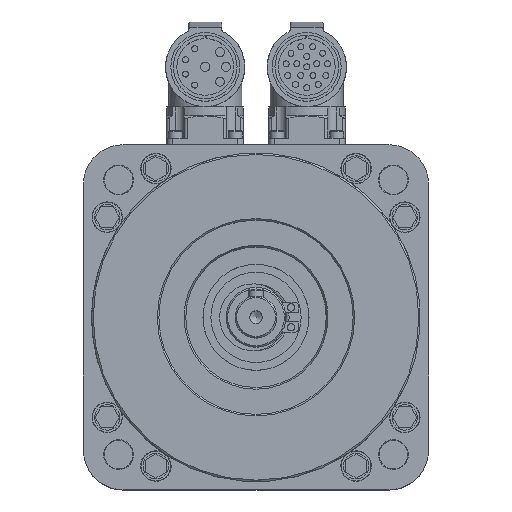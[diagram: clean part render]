
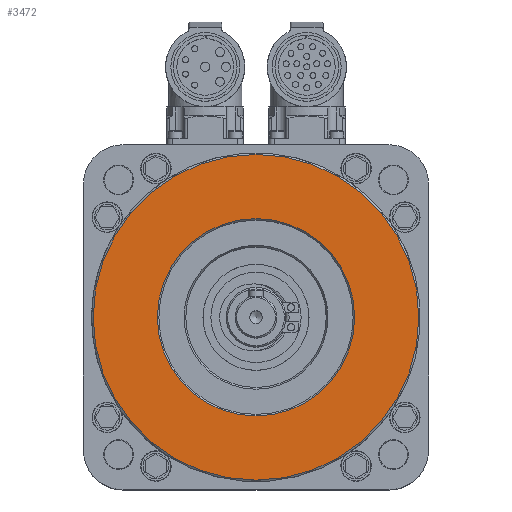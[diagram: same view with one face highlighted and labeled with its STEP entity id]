
A CAD part, top view. The second image highlights one B-rep face of the part: STEP entity #3472.
In plain terms, the highlighted planar face has unit normal (0, 0, 1).
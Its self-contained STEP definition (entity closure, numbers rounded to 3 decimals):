
#3472 = ADVANCED_FACE( '', ( #7314, #7315 ), #7316, .F. );
#7314 = FACE_BOUND( '', #14749, .T. );
#7315 = FACE_OUTER_BOUND( '', #14750, .T. );
#7316 = PLANE( '', #14751 );
#14749 = EDGE_LOOP( '', ( #26443 ) );
#14750 = EDGE_LOOP( '', ( #26444 ) );
#14751 = AXIS2_PLACEMENT_3D( '', #26445, #26446, #26447 );
#26443 = ORIENTED_EDGE( '', *, *, #37316, .T. );
#26444 = ORIENTED_EDGE( '', *, *, #36146, .F. );
#26445 = CARTESIAN_POINT( '', ( 0., 0., 16.5 ) );
#26446 = DIRECTION( '', ( 0., 0., -1. ) );
#26447 = DIRECTION( '', ( -1., 0., 0. ) );
#36146 = EDGE_CURVE( '', #45275, #45275, #45276, .T. );
#37316 = EDGE_CURVE( '', #47038, #47038, #47039, .T. );
#45275 = VERTEX_POINT( '', #59799 );
#45276 = CIRCLE( '', #59800, 54.5 );
#47038 = VERTEX_POINT( '', #64374 );
#47039 = CIRCLE( '', #64375, 33. );
#59799 = CARTESIAN_POINT( '', ( -54.5, 0., 16.5 ) );
#59800 = AXIS2_PLACEMENT_3D( '', #73909, #73910, #73911 );
#64374 = CARTESIAN_POINT( '', ( -33., 0., 16.5 ) );
#64375 = AXIS2_PLACEMENT_3D( '', #75430, #75431, #75432 );
#73909 = CARTESIAN_POINT( '', ( 0., 0., 16.5 ) );
#73910 = DIRECTION( '', ( 0., 0., -1. ) );
#73911 = DIRECTION( '', ( -1., 0., 0. ) );
#75430 = CARTESIAN_POINT( '', ( 0., 0., 16.5 ) );
#75431 = DIRECTION( '', ( 0., 0., -1. ) );
#75432 = DIRECTION( '', ( -1., 0., 0. ) );
